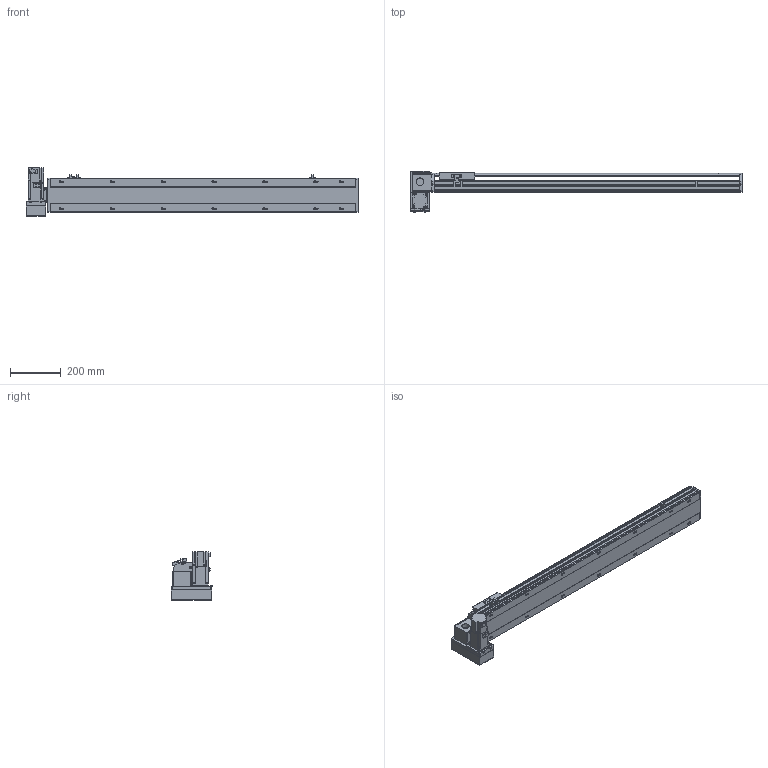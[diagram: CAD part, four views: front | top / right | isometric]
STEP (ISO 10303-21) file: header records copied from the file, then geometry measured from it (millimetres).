
FILE_DESCRIPTION( ( 'STEP AP214' ), '1' );
FILE_NAME( 'x:/temp/worker_27/temp/exporttempdir_6708_561_zQf9u/format_0/PBS140-P40-S950-LD-T40-C1-N(0).stp', '2022-06-06T05:53:38', ( 'License CC BY-ND 4.0' ), ( 'CADENAS' ), ' ', 'PARTsolutions', ' ' );
FILE_SCHEMA( ( 'AUTOMOTIVE_DESIGN { 1 0 10303 214 1 1 1 1 }' ) );
Length unit declared in the file: millimetre
Products named in the file (7): PBS140-P40-S950-LD-T40-C1-N(0); _PBS140-S950()_body; _PBS140T-LD_motors; _T40-p1; _PBS140_sliser; _PBS140_plant; _PBS140_sensor
Assembly tree (8 placements, depth 2):
  PBS140-P40-S950-LD-T40-C1-N(0)
    _PBS140-S950()_body
    _PBS140T-LD_motors
    _T40-p1
    _PBS140_sliser
    _PBS140_plant
    _PBS140_sensor  x3
Bounding box: 1304 x 162 x 189.7 mm (x, y, z)
Volume: 6302778.9 mm3; surface area: 1105244.2 mm2
Topology: 8 solids, 8 shells, 1059 faces, 2796 edges, 1827 vertices
Faces by surface type: plane 686, cylinder 323, cone 40, sphere 8, torus 2
Full cylindrical faces by diameter (mm): 3.242 x4, 4 x2, 4.134 x4, 4.4 x8, 4.5 x2, 4.8 x4, 4.917 x22, 5.5 x7, 6 x2, 7 x16, 7.5 x8, 8 x12, 8.5 x4, 10.5 x14, 14 x1, 30 x2, 50 x2
Entity records: 38647 total; most frequent: CARTESIAN_POINT 6083, DIRECTION 5127, ORIENTED_EDGE 4852, EDGE_CURVE 2426, AXIS2_PLACEMENT_3D 1777, VERTEX_POINT 1677, LINE 1573, VECTOR 1573
